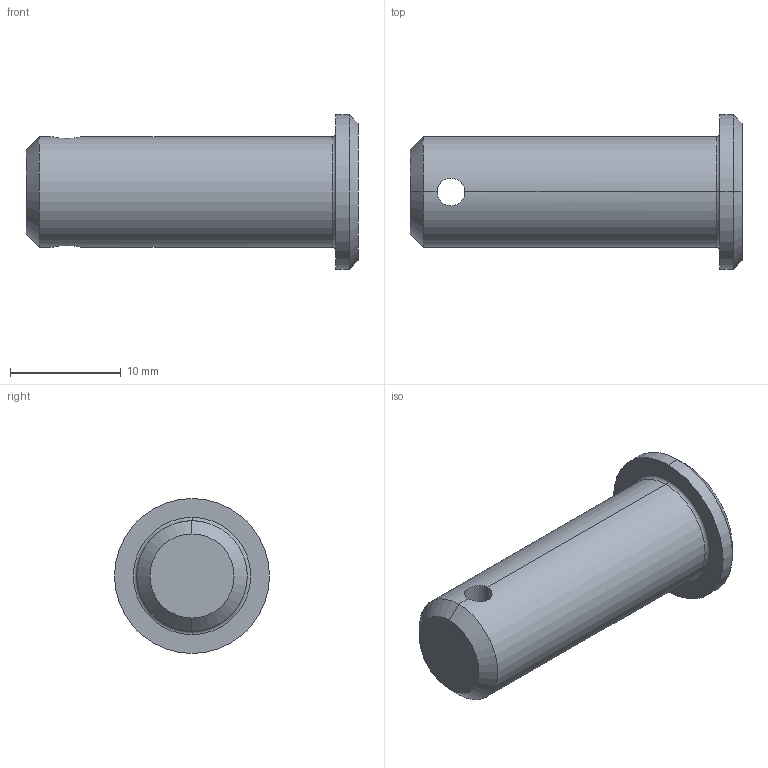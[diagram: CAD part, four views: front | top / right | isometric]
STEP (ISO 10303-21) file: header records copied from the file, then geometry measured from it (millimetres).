
FILE_DESCRIPTION (( 'STEP AP203' ), '1' );
FILE_NAME ('Wiberger-sms2360_10x28.step', '2012-10-09T08:56:51', ( 'Magnus' ), ( 'Wiberger' ), 'SwSTEP 2.0', 'SolidWorks 2011', '' );
FILE_SCHEMA (( 'CONFIG_CONTROL_DESIGN' ));
Length unit declared in the file: millimetre
Products named in the file (1): Wiberger-sms2360_10x28
Bounding box: 30 x 14 x 14 mm (x, y, z)
Volume: 2424.6 mm3; surface area: 1293.5 mm2
Topology: 1 solids, 1 shells, 15 faces, 32 edges, 18 vertices
Faces by surface type: cylinder 6, cone 4, plane 3, torus 2
Entity records: 555 total; most frequent: CARTESIAN_POINT 146, DIRECTION 76, ORIENTED_EDGE 64, AXIS2_PLACEMENT_3D 32, EDGE_CURVE 32, VERTEX_POINT 18, CIRCLE 16, EDGE_LOOP 16
